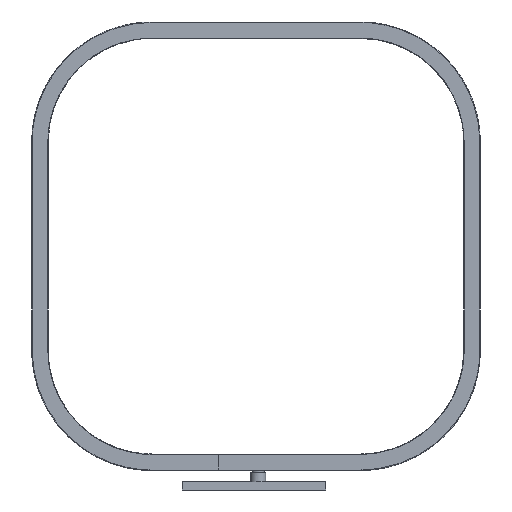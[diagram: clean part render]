
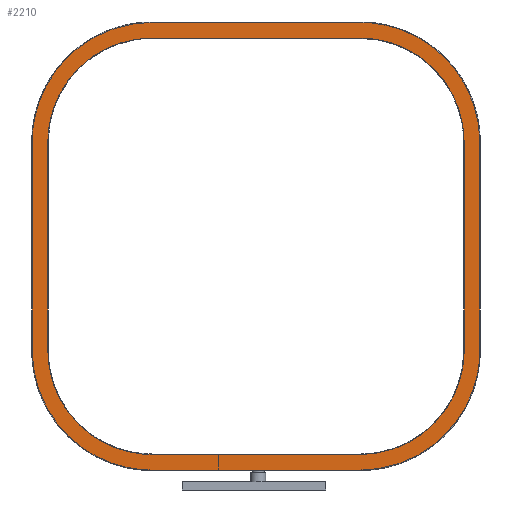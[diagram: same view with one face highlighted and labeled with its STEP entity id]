
A CAD part, front view. The second image highlights one B-rep face of the part: STEP entity #2210.
In plain terms, the highlighted planar face has unit normal (0, -1, 0) as drawn and (0, 1, 0) by its records, which use the part's own axes.
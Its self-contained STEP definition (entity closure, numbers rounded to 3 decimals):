
#884=(
BOUNDED_CURVE()
B_SPLINE_CURVE(2,(#31013,#31014,#31015),.UNSPECIFIED.,.F.,.F.)
B_SPLINE_CURVE_WITH_KNOTS((3,3),(0.,252.113),.UNSPECIFIED.)
CURVE()
GEOMETRIC_REPRESENTATION_ITEM()
RATIONAL_B_SPLINE_CURVE((1.,0.707,1.))
REPRESENTATION_ITEM('')
);
#885=(
BOUNDED_CURVE()
B_SPLINE_CURVE(2,(#31018,#31019,#31020),.UNSPECIFIED.,.F.,.F.)
B_SPLINE_CURVE_WITH_KNOTS((3,3),(0.,252.113),.UNSPECIFIED.)
CURVE()
GEOMETRIC_REPRESENTATION_ITEM()
RATIONAL_B_SPLINE_CURVE((1.,0.707,1.))
REPRESENTATION_ITEM('')
);
#886=(
BOUNDED_CURVE()
B_SPLINE_CURVE(2,(#31023,#31024,#31025),.UNSPECIFIED.,.F.,.F.)
B_SPLINE_CURVE_WITH_KNOTS((3,3),(0.,252.113),.UNSPECIFIED.)
CURVE()
GEOMETRIC_REPRESENTATION_ITEM()
RATIONAL_B_SPLINE_CURVE((1.,0.707,1.))
REPRESENTATION_ITEM('')
);
#887=(
BOUNDED_CURVE()
B_SPLINE_CURVE(2,(#31028,#31029,#31030),.UNSPECIFIED.,.F.,.F.)
B_SPLINE_CURVE_WITH_KNOTS((3,3),(0.,252.113),.UNSPECIFIED.)
CURVE()
GEOMETRIC_REPRESENTATION_ITEM()
RATIONAL_B_SPLINE_CURVE((1.,0.707,1.))
REPRESENTATION_ITEM('')
);
#888=(
BOUNDED_CURVE()
B_SPLINE_CURVE(2,(#31037,#31038,#31039),.UNSPECIFIED.,.F.,.F.)
B_SPLINE_CURVE_WITH_KNOTS((3,3),(-219.126,0.),.UNSPECIFIED.)
CURVE()
GEOMETRIC_REPRESENTATION_ITEM()
RATIONAL_B_SPLINE_CURVE((1.,0.707,1.))
REPRESENTATION_ITEM('')
);
#889=(
BOUNDED_CURVE()
B_SPLINE_CURVE(2,(#31042,#31043,#31044),.UNSPECIFIED.,.F.,.F.)
B_SPLINE_CURVE_WITH_KNOTS((3,3),(-219.126,0.),.UNSPECIFIED.)
CURVE()
GEOMETRIC_REPRESENTATION_ITEM()
RATIONAL_B_SPLINE_CURVE((1.,0.707,1.))
REPRESENTATION_ITEM('')
);
#890=(
BOUNDED_CURVE()
B_SPLINE_CURVE(2,(#31047,#31048,#31049),.UNSPECIFIED.,.F.,.F.)
B_SPLINE_CURVE_WITH_KNOTS((3,3),(-219.126,0.),.UNSPECIFIED.)
CURVE()
GEOMETRIC_REPRESENTATION_ITEM()
RATIONAL_B_SPLINE_CURVE((1.,0.707,1.))
REPRESENTATION_ITEM('')
);
#891=(
BOUNDED_CURVE()
B_SPLINE_CURVE(2,(#31052,#31053,#31054),.UNSPECIFIED.,.F.,.F.)
B_SPLINE_CURVE_WITH_KNOTS((3,3),(-219.126,0.),.UNSPECIFIED.)
CURVE()
GEOMETRIC_REPRESENTATION_ITEM()
RATIONAL_B_SPLINE_CURVE((1.,0.707,1.))
REPRESENTATION_ITEM('')
);
#2210=ADVANCED_FACE('',(#3007),#12211,.T.);
#3007=FACE_OUTER_BOUND('',#3813,.T.);
#3813=EDGE_LOOP('',(#6530,#6531,#6532,#6533,#6534,#6535,#6536,#6537,#6538,
#6539,#6540,#6541,#6542,#6543,#6544,#6545,#6546,#6547,#6548,#6549));
#6530=ORIENTED_EDGE('',*,*,#9203,.F.);
#6531=ORIENTED_EDGE('',*,*,#9204,.T.);
#6532=ORIENTED_EDGE('',*,*,#9205,.T.);
#6533=ORIENTED_EDGE('',*,*,#9206,.T.);
#6534=ORIENTED_EDGE('',*,*,#9207,.T.);
#6535=ORIENTED_EDGE('',*,*,#9208,.T.);
#6536=ORIENTED_EDGE('',*,*,#9209,.T.);
#6537=ORIENTED_EDGE('',*,*,#9210,.T.);
#6538=ORIENTED_EDGE('',*,*,#9211,.T.);
#6539=ORIENTED_EDGE('',*,*,#9212,.F.);
#6540=ORIENTED_EDGE('',*,*,#9213,.F.);
#6541=ORIENTED_EDGE('',*,*,#9214,.F.);
#6542=ORIENTED_EDGE('',*,*,#9215,.F.);
#6543=ORIENTED_EDGE('',*,*,#9216,.F.);
#6544=ORIENTED_EDGE('',*,*,#9217,.F.);
#6545=ORIENTED_EDGE('',*,*,#9218,.F.);
#6546=ORIENTED_EDGE('',*,*,#9219,.F.);
#6547=ORIENTED_EDGE('',*,*,#9220,.F.);
#6548=ORIENTED_EDGE('',*,*,#9221,.F.);
#6549=ORIENTED_EDGE('',*,*,#9202,.F.);
#9202=EDGE_CURVE('',#11809,#11810,#10529,.T.);
#9203=EDGE_CURVE('',#11746,#11809,#10530,.T.);
#9204=EDGE_CURVE('',#11746,#11677,#884,.T.);
#9205=EDGE_CURVE('',#11677,#11608,#10531,.T.);
#9206=EDGE_CURVE('',#11608,#11539,#885,.T.);
#9207=EDGE_CURVE('',#11539,#11470,#10532,.T.);
#9208=EDGE_CURVE('',#11470,#11401,#886,.T.);
#9209=EDGE_CURVE('',#11401,#11332,#10533,.T.);
#9210=EDGE_CURVE('',#11332,#11195,#887,.T.);
#9211=EDGE_CURVE('',#11195,#11198,#10534,.T.);
#9212=EDGE_CURVE('',#11331,#11198,#10535,.T.);
#9213=EDGE_CURVE('',#11330,#11331,#10536,.T.);
#9214=EDGE_CURVE('',#11400,#11330,#888,.T.);
#9215=EDGE_CURVE('',#11469,#11400,#10537,.T.);
#9216=EDGE_CURVE('',#11538,#11469,#889,.T.);
#9217=EDGE_CURVE('',#11607,#11538,#10538,.T.);
#9218=EDGE_CURVE('',#11676,#11607,#890,.T.);
#9219=EDGE_CURVE('',#11745,#11676,#10539,.T.);
#9220=EDGE_CURVE('',#11808,#11745,#891,.T.);
#9221=EDGE_CURVE('',#11810,#11808,#10540,.T.);
#10529=B_SPLINE_CURVE_WITH_KNOTS('',1,(#31009,#31010),.UNSPECIFIED.,.F.,
 .F.,(2,2),(-21.,0.),.UNSPECIFIED.);
#10530=B_SPLINE_CURVE_WITH_KNOTS('',1,(#31011,#31012),.UNSPECIFIED.,.F.,
 .F.,(2,2),(-189.,0.),.UNSPECIFIED.);
#10531=B_SPLINE_CURVE_WITH_KNOTS('',1,(#31016,#31017),.UNSPECIFIED.,.F.,
 .F.,(2,2),(0.,278.),.UNSPECIFIED.);
#10532=B_SPLINE_CURVE_WITH_KNOTS('',1,(#31021,#31022),.UNSPECIFIED.,.F.,
 .F.,(2,2),(0.,278.),.UNSPECIFIED.);
#10533=B_SPLINE_CURVE_WITH_KNOTS('',1,(#31026,#31027),.UNSPECIFIED.,.F.,
 .F.,(2,2),(0.,278.),.UNSPECIFIED.);
#10534=B_SPLINE_CURVE_WITH_KNOTS('',1,(#31031,#31032),.UNSPECIFIED.,.F.,
 .F.,(2,2),(0.,88.9),.UNSPECIFIED.);
#10535=B_SPLINE_CURVE_WITH_KNOTS('',1,(#31033,#31034),.UNSPECIFIED.,.F.,
 .F.,(2,2),(-21.,0.),.UNSPECIFIED.);
#10536=B_SPLINE_CURVE_WITH_KNOTS('',1,(#31035,#31036),.UNSPECIFIED.,.F.,
 .F.,(2,2),(-88.9,0.),.UNSPECIFIED.);
#10537=B_SPLINE_CURVE_WITH_KNOTS('',1,(#31040,#31041),.UNSPECIFIED.,.F.,
 .F.,(2,2),(-278.,0.),.UNSPECIFIED.);
#10538=B_SPLINE_CURVE_WITH_KNOTS('',1,(#31045,#31046),.UNSPECIFIED.,.F.,
 .F.,(2,2),(-278.,0.),.UNSPECIFIED.);
#10539=B_SPLINE_CURVE_WITH_KNOTS('',1,(#31050,#31051),.UNSPECIFIED.,.F.,
 .F.,(2,2),(-278.,0.),.UNSPECIFIED.);
#10540=B_SPLINE_CURVE_WITH_KNOTS('',1,(#31055,#31056),.UNSPECIFIED.,.F.,
 .F.,(2,2),(-189.,0.),.UNSPECIFIED.);
#11195=VERTEX_POINT('',#27589);
#11198=VERTEX_POINT('',#27592);
#11330=VERTEX_POINT('',#27724);
#11331=VERTEX_POINT('',#27725);
#11332=VERTEX_POINT('',#27726);
#11400=VERTEX_POINT('',#27794);
#11401=VERTEX_POINT('',#27795);
#11469=VERTEX_POINT('',#27863);
#11470=VERTEX_POINT('',#27864);
#11538=VERTEX_POINT('',#27932);
#11539=VERTEX_POINT('',#27933);
#11607=VERTEX_POINT('',#28001);
#11608=VERTEX_POINT('',#28002);
#11676=VERTEX_POINT('',#28070);
#11677=VERTEX_POINT('',#28071);
#11745=VERTEX_POINT('',#28139);
#11746=VERTEX_POINT('',#28140);
#11808=VERTEX_POINT('',#28202);
#11809=VERTEX_POINT('',#28203);
#11810=VERTEX_POINT('',#28204);
#12211=PLANE('',#12773);
#12773=AXIS2_PLACEMENT_3D('',#27420,#13367,$);
#13367=DIRECTION('',(0.,1.,0.));
#27420=CARTESIAN_POINT('',(836.454,437.508,-337.61));
#27589=CARTESIAN_POINT('',(896.963,437.508,-116.6));
#27592=CARTESIAN_POINT('',(896.963,437.508,-27.7));
#27724=CARTESIAN_POINT('',(917.963,437.508,-116.6));
#27725=CARTESIAN_POINT('',(917.963,437.508,-27.7));
#27726=CARTESIAN_POINT('',(1057.463,437.508,-277.1));
#27794=CARTESIAN_POINT('',(1057.463,437.508,-256.1));
#27795=CARTESIAN_POINT('',(1335.463,437.508,-277.1));
#27863=CARTESIAN_POINT('',(1335.463,437.508,-256.1));
#27864=CARTESIAN_POINT('',(1495.963,437.508,-116.6));
#27932=CARTESIAN_POINT('',(1474.963,437.508,-116.6));
#27933=CARTESIAN_POINT('',(1495.963,437.508,161.4));
#28001=CARTESIAN_POINT('',(1474.963,437.508,161.4));
#28002=CARTESIAN_POINT('',(1335.463,437.508,321.9));
#28070=CARTESIAN_POINT('',(1335.463,437.508,300.9));
#28071=CARTESIAN_POINT('',(1057.463,437.508,321.9));
#28139=CARTESIAN_POINT('',(1057.463,437.508,300.9));
#28140=CARTESIAN_POINT('',(896.963,437.508,161.4));
#28202=CARTESIAN_POINT('',(917.963,437.508,161.4));
#28203=CARTESIAN_POINT('',(896.963,437.508,-27.6));
#28204=CARTESIAN_POINT('',(917.963,437.508,-27.6));
#31009=CARTESIAN_POINT('',(896.963,437.508,-27.6));
#31010=CARTESIAN_POINT('',(917.963,437.508,-27.6));
#31011=CARTESIAN_POINT('',(896.963,437.508,161.4));
#31012=CARTESIAN_POINT('',(896.963,437.508,-27.6));
#31013=CARTESIAN_POINT('',(896.963,437.508,161.4));
#31014=CARTESIAN_POINT('',(896.963,437.508,321.9));
#31015=CARTESIAN_POINT('',(1057.463,437.508,321.9));
#31016=CARTESIAN_POINT('',(1057.463,437.508,321.9));
#31017=CARTESIAN_POINT('',(1335.463,437.508,321.9));
#31018=CARTESIAN_POINT('',(1335.463,437.508,321.9));
#31019=CARTESIAN_POINT('',(1495.963,437.508,321.9));
#31020=CARTESIAN_POINT('',(1495.963,437.508,161.4));
#31021=CARTESIAN_POINT('',(1495.963,437.508,161.4));
#31022=CARTESIAN_POINT('',(1495.963,437.508,-116.6));
#31023=CARTESIAN_POINT('',(1495.963,437.508,-116.6));
#31024=CARTESIAN_POINT('',(1495.963,437.508,-277.1));
#31025=CARTESIAN_POINT('',(1335.463,437.508,-277.1));
#31026=CARTESIAN_POINT('',(1335.463,437.508,-277.1));
#31027=CARTESIAN_POINT('',(1057.463,437.508,-277.1));
#31028=CARTESIAN_POINT('',(1057.463,437.508,-277.1));
#31029=CARTESIAN_POINT('',(896.963,437.508,-277.1));
#31030=CARTESIAN_POINT('',(896.963,437.508,-116.6));
#31031=CARTESIAN_POINT('',(896.963,437.508,-116.6));
#31032=CARTESIAN_POINT('',(896.963,437.508,-27.7));
#31033=CARTESIAN_POINT('',(917.963,437.508,-27.7));
#31034=CARTESIAN_POINT('',(896.963,437.508,-27.7));
#31035=CARTESIAN_POINT('',(917.963,437.508,-116.6));
#31036=CARTESIAN_POINT('',(917.963,437.508,-27.7));
#31037=CARTESIAN_POINT('',(1057.463,437.508,-256.1));
#31038=CARTESIAN_POINT('',(917.963,437.508,-256.1));
#31039=CARTESIAN_POINT('',(917.963,437.508,-116.6));
#31040=CARTESIAN_POINT('',(1335.463,437.508,-256.1));
#31041=CARTESIAN_POINT('',(1057.463,437.508,-256.1));
#31042=CARTESIAN_POINT('',(1474.963,437.508,-116.6));
#31043=CARTESIAN_POINT('',(1474.963,437.508,-256.1));
#31044=CARTESIAN_POINT('',(1335.463,437.508,-256.1));
#31045=CARTESIAN_POINT('',(1474.963,437.508,161.4));
#31046=CARTESIAN_POINT('',(1474.963,437.508,-116.6));
#31047=CARTESIAN_POINT('',(1335.463,437.508,300.9));
#31048=CARTESIAN_POINT('',(1474.963,437.508,300.9));
#31049=CARTESIAN_POINT('',(1474.963,437.508,161.4));
#31050=CARTESIAN_POINT('',(1057.463,437.508,300.9));
#31051=CARTESIAN_POINT('',(1335.463,437.508,300.9));
#31052=CARTESIAN_POINT('',(917.963,437.508,161.4));
#31053=CARTESIAN_POINT('',(917.963,437.508,300.9));
#31054=CARTESIAN_POINT('',(1057.463,437.508,300.9));
#31055=CARTESIAN_POINT('',(917.963,437.508,-27.6));
#31056=CARTESIAN_POINT('',(917.963,437.508,161.4));
